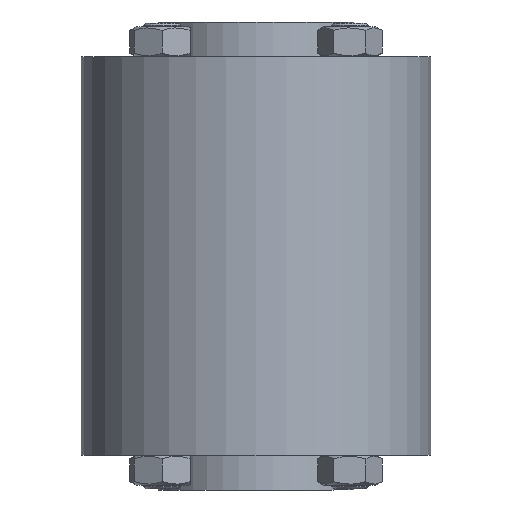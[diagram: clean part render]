
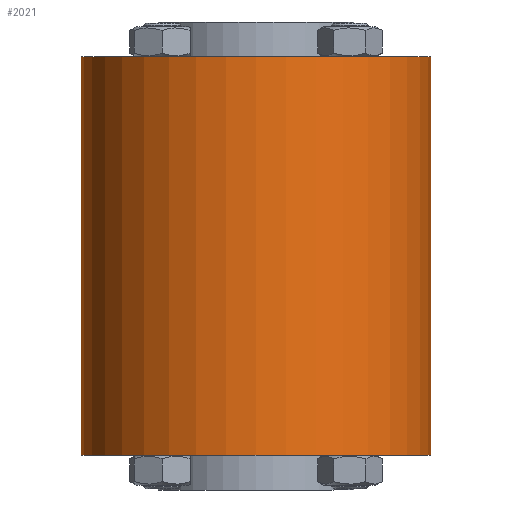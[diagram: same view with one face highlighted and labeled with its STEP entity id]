
A CAD part, front view. The second image highlights one B-rep face of the part: STEP entity #2021.
In plain terms, the highlighted cylindrical face has radius 75 mm (diameter 150 mm), a full revolution.
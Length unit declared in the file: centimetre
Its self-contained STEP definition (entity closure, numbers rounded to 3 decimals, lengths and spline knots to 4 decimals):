
#30=CYLINDRICAL_SURFACE('',#2217,7.5);
#354=FACE_BOUND('',#682,.T.);
#500=FACE_OUTER_BOUND('',#681,.T.);
#681=EDGE_LOOP('',(#1621));
#682=EDGE_LOOP('',(#1622));
#838=CIRCLE('',#2218,7.5);
#839=CIRCLE('',#2219,7.5);
#1010=VERTEX_POINT('',#3376);
#1011=VERTEX_POINT('',#3378);
#1236=EDGE_CURVE('',#1010,#1010,#838,.T.);
#1237=EDGE_CURVE('',#1011,#1011,#839,.T.);
#1621=ORIENTED_EDGE('',*,*,#1236,.F.);
#1622=ORIENTED_EDGE('',*,*,#1237,.F.);
#2021=ADVANCED_FACE('',(#500,#354),#30,.T.);
#2217=AXIS2_PLACEMENT_3D('',#3375,#2621,#2622);
#2218=AXIS2_PLACEMENT_3D('',#3377,#2623,#2624);
#2219=AXIS2_PLACEMENT_3D('',#3379,#2625,#2626);
#2621=DIRECTION('center_axis',(0.,0.,
-1.));
#2622=DIRECTION('ref_axis',(-1.,0.,0.));
#2623=DIRECTION('center_axis',(0.,0.,
1.));
#2624=DIRECTION('ref_axis',(0.,-1.,0.));
#2625=DIRECTION('center_axis',(0.,0.,
-1.));
#2626=DIRECTION('ref_axis',(0.,-1.,0.));
#3375=CARTESIAN_POINT('Origin',(0.,0.,
-8.2));
#3376=CARTESIAN_POINT('',(7.5,0.,8.55));
#3377=CARTESIAN_POINT('Origin',(0.,0.,
8.55));
#3378=CARTESIAN_POINT('',(7.5,0.,-8.55));
#3379=CARTESIAN_POINT('Origin',(0.,0.,
-8.55));
